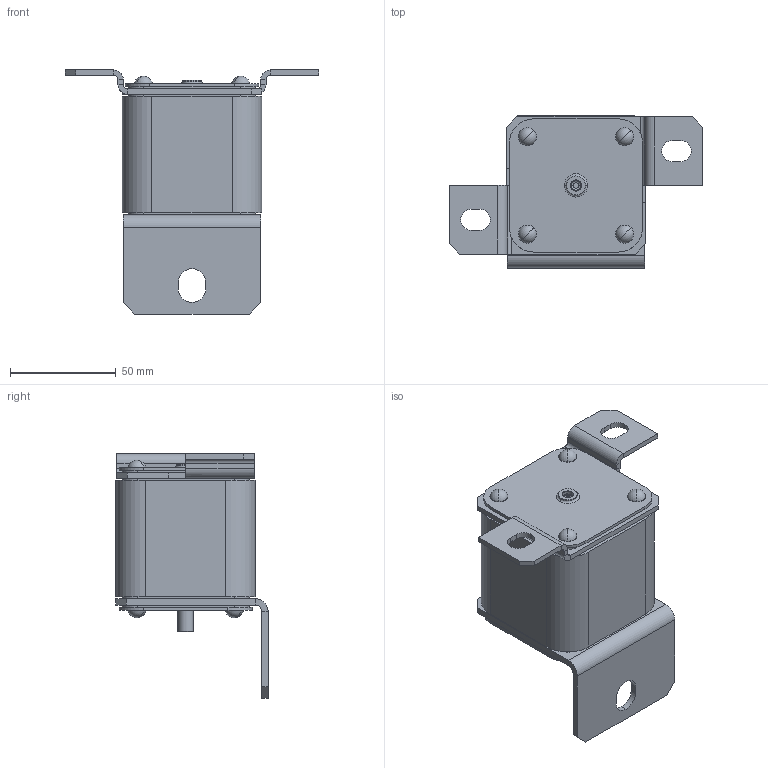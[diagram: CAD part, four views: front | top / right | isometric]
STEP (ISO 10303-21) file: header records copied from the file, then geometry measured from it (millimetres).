
FILE_DESCRIPTION (( 'STEP AP214' ), '1' );
FILE_NAME ('ﾏﾏ60ﾑ-37,38,39,40ﾍ1-XXXX-XXXX-ﾊﾝﾀﾇ.STEP', '2023-05-02T05:32:11', ( '' ), ( '' ), 'SwSTEP 2.0', 'SolidWorks 2018', '' );
FILE_SCHEMA (( 'AUTOMOTIVE_DESIGN' ));
Length unit declared in the file: millimetre
Products named in the file (1): ﾏﾏ60ﾑ-37,38,39,40ﾍ1-XXXX-XXXX-ﾊﾝﾀﾇ
Bounding box: 120 x 72 x 115.5 mm (x, y, z)
Volume: 282189.8 mm3; surface area: 51557.7 mm2
Topology: 1 solids, 10 shells, 387 faces, 865 edges, 538 vertices
Faces by surface type: plane 200, cylinder 135, torus 28, sphere 16, cone 8
Entity records: 15050 total; most frequent: DIRECTION 2055, CARTESIAN_POINT 1791, ORIENTED_EDGE 1730, EDGE_CURVE 865, AXIS2_PLACEMENT_3D 802, VERTEX_POINT 538, LINE 451, VECTOR 451
